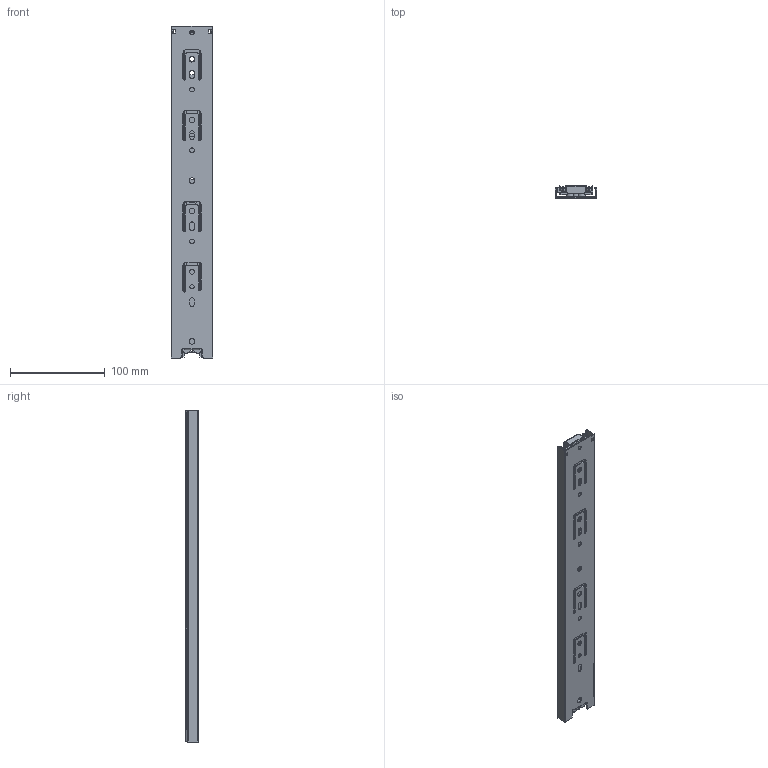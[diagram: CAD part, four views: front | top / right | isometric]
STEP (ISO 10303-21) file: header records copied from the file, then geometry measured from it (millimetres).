
FILE_DESCRIPTION(/* description */ (''),/* implementation_level */ '2;1');
FILE_NAME(/* name */ 'C:\Users\dmitruk\Documents\WORK\\X2\041D0410041F042004100412041B042F042E042904180415\X0\\Шариковые\h45 L-350 AKS.stp',/* time_stamp */ '2022-04-19T17:32:28+03:00',/* author */ ('dmitruk'),/* organization */ ('AKS'),/* preprocessor_version */ 'ST-DEVELOPER v16.5',/* originating_system */ 'Autodesk Inventor 2017',/* authorisation */ '');
FILE_SCHEMA (('AUTOMOTIVE_DESIGN { 1 0 10303 214 3 1 1 }'));
Length unit declared in the file: millimetre
Products named in the file (5): h45 L-350 AKS; h45 L-350 AKS_11; h45 L-350 AKS_12; h45 L-350_13; h45 L-350 AKS_2
Assembly tree (4 placements, depth 2):
  h45 L-350 AKS
    h45 L-350 AKS_11
    h45 L-350 AKS_12
    h45 L-350_13
    h45 L-350 AKS_2
Bounding box: 44 x 13 x 350.01 mm (x, y, z)
Volume: 55116.6 mm3; surface area: 108897.2 mm2
Topology: 4 solids, 4 shells, 652 faces, 1905 edges, 1243 vertices
Faces by surface type: plane 370, cylinder 242, sphere 40
Full cylindrical faces by diameter (mm): 4.5 x5, 4.9 x3, 5.5 x1, 5.9 x5
Entity records: 22128 total; most frequent: CARTESIAN_POINT 4019, ORIENTED_EDGE 3778, DIRECTION 3771, EDGE_CURVE 1889, LINE 1281, VECTOR 1281, AXIS2_PLACEMENT_3D 1245, VERTEX_POINT 1241
